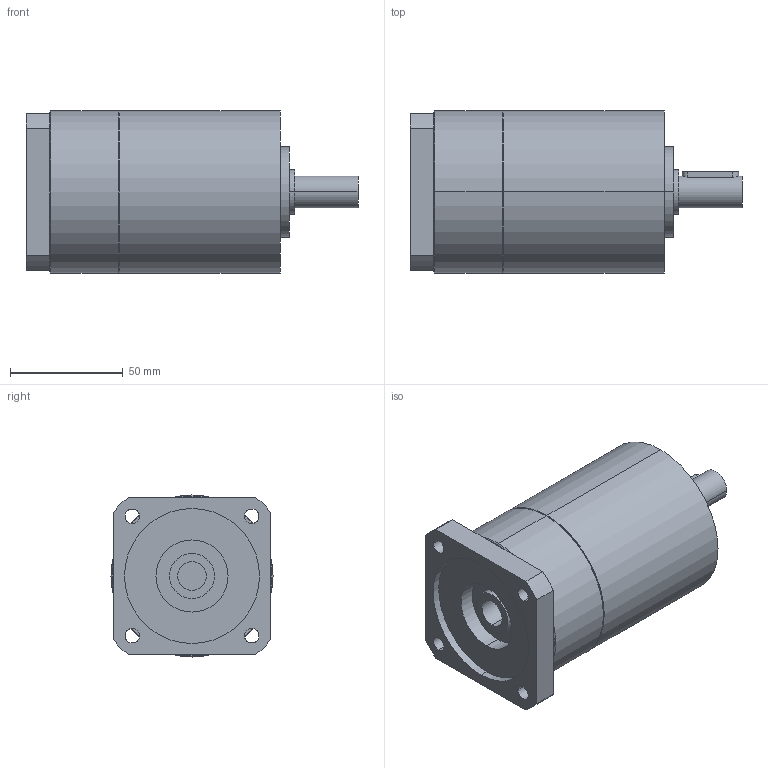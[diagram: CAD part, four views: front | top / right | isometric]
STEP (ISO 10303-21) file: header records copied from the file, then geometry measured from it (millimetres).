
FILE_DESCRIPTION(('CoCreate Modeling STEP Export'),'2;1');
FILE_NAME('GPT75_ig-9-12-16-20-25-28-35-40-50-70-100_14_B14T_12.7_P04.stp','2014-08-27T13:09:00',(''),(''),'CoCreate Modeling STEP processor for AP214 (Solid Model)','CoCreate Modeling 16.00C 25-Feb-2009 (C) Parametric Technology GmbH','');
FILE_SCHEMA(('AUTOMOTIVE_DESIGN { 1 0 10303 214 1 1 1 1 }'));
Length unit declared in the file: millimetre
Products named in the file (2): GPT75_ig-9-12-16-20-25-28-35-40-50-70-100_14_B14T_12.7_P04
Assembly tree (1 placements, depth 2):
  GPT75_ig-9-12-16-20-25-28-35-40-50-70-100_14_B14T_12.7_P04
    GPT75_ig-9-12-16-20-25-28-35-40-50-70-100_14_B14T_12.7_P04
Bounding box: 147.5 x 72 x 72 mm (x, y, z)
Volume: 457326.9 mm3; surface area: 42266.4 mm2
Topology: 1 solids, 1 shells, 80 faces, 192 edges, 123 vertices
Faces by surface type: cylinder 42, plane 34, cone 4
Entity records: 2323 total; most frequent: CARTESIAN_POINT 683, ORIENTED_EDGE 384, DIRECTION 276, EDGE_CURVE 192, VERTEX_POINT 123, AXIS2_PLACEMENT_3D 104, EDGE_LOOP 97, FACE_OUTER_BOUND 80
